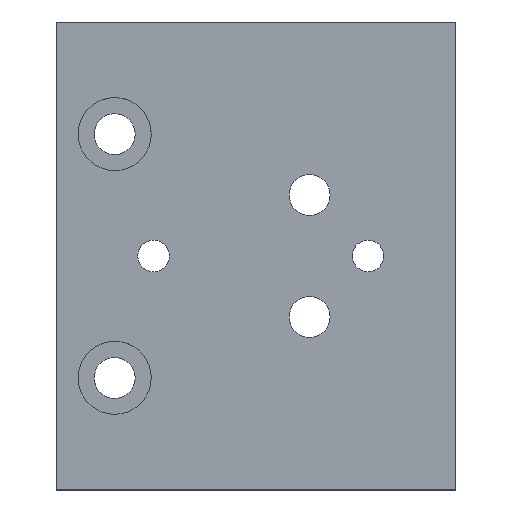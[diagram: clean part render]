
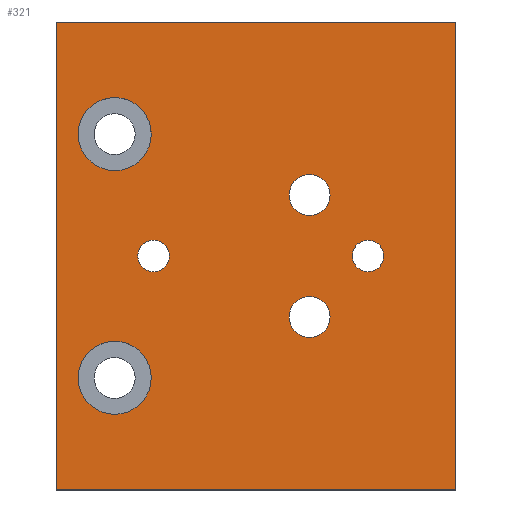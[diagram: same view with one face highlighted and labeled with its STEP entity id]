
A CAD part, top view. The second image highlights one B-rep face of the part: STEP entity #321.
In plain terms, the highlighted planar face has unit normal (0, 0, 1).
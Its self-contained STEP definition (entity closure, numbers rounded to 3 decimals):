
#22 = EDGE_CURVE ( 'NONE', #93, #83, #390, .T. ) ;
#58 = VERTEX_POINT ( 'NONE', #488 ) ;
#61 = VERTEX_POINT ( 'NONE', #483 ) ;
#63 = EDGE_CURVE ( 'NONE', #130, #61, #482, .T. ) ;
#83 = VERTEX_POINT ( 'NONE', #506 ) ;
#93 = VERTEX_POINT ( 'NONE', #543 ) ;
#98 = EDGE_CURVE ( 'NONE', #163, #164, #536, .T. ) ;
#100 = VERTEX_POINT ( 'NONE', #527 ) ;
#101 = VERTEX_POINT ( 'NONE', #526 ) ;
#106 = EDGE_CURVE ( 'NONE', #101, #100, #586, .T. ) ;
#120 = EDGE_CURVE ( 'NONE', #58, #129, #559, .T. ) ;
#129 = VERTEX_POINT ( 'NONE', #596 ) ;
#130 = VERTEX_POINT ( 'NONE', #595 ) ;
#150 = ORIENTED_EDGE ( 'NONE', *, *, #279, .T. ) ;
#163 = VERTEX_POINT ( 'NONE', #667 ) ;
#164 = VERTEX_POINT ( 'NONE', #666 ) ;
#256 = EDGE_CURVE ( 'NONE', #164, #163, #810, .T. ) ;
#263 = ORIENTED_EDGE ( 'NONE', *, *, #264, .F. ) ;
#264 = EDGE_CURVE ( 'NONE', #265, #325, #794, .T. ) ;
#265 = VERTEX_POINT ( 'NONE', #786 ) ;
#266 = ORIENTED_EDGE ( 'NONE', *, *, #267, .F. ) ;
#267 = EDGE_CURVE ( 'NONE', #268, #265, #785, .T. ) ;
#268 = VERTEX_POINT ( 'NONE', #845 ) ;
#269 = ORIENTED_EDGE ( 'NONE', *, *, #270, .F. ) ;
#270 = EDGE_CURVE ( 'NONE', #326, #268, #844, .T. ) ;
#271 = EDGE_LOOP ( 'NONE', ( #272, #273 ) ) ;
#272 = ORIENTED_EDGE ( 'NONE', *, *, #63, .T. ) ;
#273 = ORIENTED_EDGE ( 'NONE', *, *, #297, .T. ) ;
#274 = EDGE_LOOP ( 'NONE', ( #275, #276 ) ) ;
#275 = ORIENTED_EDGE ( 'NONE', *, *, #106, .T. ) ;
#276 = ORIENTED_EDGE ( 'NONE', *, *, #305, .T. ) ;
#279 = EDGE_CURVE ( 'NONE', #281, #282, #838, .T. ) ;
#281 = VERTEX_POINT ( 'NONE', #829 ) ;
#282 = VERTEX_POINT ( 'NONE', #828 ) ;
#292 = EDGE_CURVE ( 'NONE', #282, #281, #879, .T. ) ;
#297 = EDGE_CURVE ( 'NONE', #61, #130, #869, .T. ) ;
#305 = EDGE_CURVE ( 'NONE', #100, #101, #851, .T. ) ;
#321 = ADVANCED_FACE ( 'NONE', ( #892, #891, #890, #889, #888, #887, #886 ), #885, .T. ) ;
#322 = EDGE_LOOP ( 'NONE', ( #323, #263, #266, #269 ) ) ;
#323 = ORIENTED_EDGE ( 'NONE', *, *, #324, .F. ) ;
#324 = EDGE_CURVE ( 'NONE', #325, #326, #880, .T. ) ;
#325 = VERTEX_POINT ( 'NONE', #934 ) ;
#326 = VERTEX_POINT ( 'NONE', #933 ) ;
#349 = EDGE_LOOP ( 'NONE', ( #350, #351 ) ) ;
#350 = ORIENTED_EDGE ( 'NONE', *, *, #22, .T. ) ;
#351 = ORIENTED_EDGE ( 'NONE', *, *, #352, .T. ) ;
#352 = EDGE_CURVE ( 'NONE', #83, #93, #932, .T. ) ;
#353 = EDGE_LOOP ( 'NONE', ( #354, #355 ) ) ;
#354 = ORIENTED_EDGE ( 'NONE', *, *, #120, .T. ) ;
#355 = ORIENTED_EDGE ( 'NONE', *, *, #356, .T. ) ;
#356 = EDGE_CURVE ( 'NONE', #129, #58, #927, .T. ) ;
#357 = EDGE_LOOP ( 'NONE', ( #358, #359 ) ) ;
#358 = ORIENTED_EDGE ( 'NONE', *, *, #256, .T. ) ;
#359 = ORIENTED_EDGE ( 'NONE', *, *, #98, .T. ) ;
#360 = EDGE_LOOP ( 'NONE', ( #361, #150 ) ) ;
#361 = ORIENTED_EDGE ( 'NONE', *, *, #292, .T. ) ;
#386 = DIRECTION ( 'NONE',  ( 1., 0., 0. ) ) ;
#387 = DIRECTION ( 'NONE',  ( 0., 0., -1. ) ) ;
#388 = CARTESIAN_POINT ( 'NONE',  ( 32., 24., 7. ) ) ;
#389 = AXIS2_PLACEMENT_3D ( 'NONE', #388, #387, #386 ) ;
#390 = CIRCLE ( 'NONE', #389, 1.621 ) ;
#478 = DIRECTION ( 'NONE',  ( 1., 0., 0. ) ) ;
#479 = DIRECTION ( 'NONE',  ( 0., 0., -1. ) ) ;
#480 = CARTESIAN_POINT ( 'NONE',  ( 6., 36.5, 7. ) ) ;
#481 = AXIS2_PLACEMENT_3D ( 'NONE', #480, #479, #478 ) ;
#482 = CIRCLE ( 'NONE', #481, 3.75 ) ;
#483 = CARTESIAN_POINT ( 'NONE',  ( 2.25, 36.5, 7. ) ) ;
#488 = CARTESIAN_POINT ( 'NONE',  ( 11.621, 24., 7. ) ) ;
#506 = CARTESIAN_POINT ( 'NONE',  ( 30.379, 24., 7. ) ) ;
#526 = CARTESIAN_POINT ( 'NONE',  ( 9.75, 11.5, 7. ) ) ;
#527 = CARTESIAN_POINT ( 'NONE',  ( 2.25, 11.5, 7. ) ) ;
#532 = DIRECTION ( 'NONE',  ( -1., 0., 0. ) ) ;
#533 = DIRECTION ( 'NONE',  ( 0., 0., -1. ) ) ;
#534 = CARTESIAN_POINT ( 'NONE',  ( 26., 17.75, 7. ) ) ;
#535 = AXIS2_PLACEMENT_3D ( 'NONE', #534, #533, #532 ) ;
#536 = CIRCLE ( 'NONE', #535, 2.1 ) ;
#543 = CARTESIAN_POINT ( 'NONE',  ( 33.621, 24., 7. ) ) ;
#555 = DIRECTION ( 'NONE',  ( 1., 0., 0. ) ) ;
#556 = DIRECTION ( 'NONE',  ( 0., 0., -1. ) ) ;
#557 = CARTESIAN_POINT ( 'NONE',  ( 10., 24., 7. ) ) ;
#558 = AXIS2_PLACEMENT_3D ( 'NONE', #557, #556, #555 ) ;
#559 = CIRCLE ( 'NONE', #558, 1.621 ) ;
#582 = DIRECTION ( 'NONE',  ( 1., 0., 0. ) ) ;
#583 = DIRECTION ( 'NONE',  ( 0., 0., -1. ) ) ;
#584 = CARTESIAN_POINT ( 'NONE',  ( 6., 11.5, 7. ) ) ;
#585 = AXIS2_PLACEMENT_3D ( 'NONE', #584, #583, #582 ) ;
#586 = CIRCLE ( 'NONE', #585, 3.75 ) ;
#595 = CARTESIAN_POINT ( 'NONE',  ( 9.75, 36.5, 7. ) ) ;
#596 = CARTESIAN_POINT ( 'NONE',  ( 8.379, 24., 7. ) ) ;
#666 = CARTESIAN_POINT ( 'NONE',  ( 23.9, 17.75, 7. ) ) ;
#667 = CARTESIAN_POINT ( 'NONE',  ( 28.1, 17.75, 7. ) ) ;
#783 = VECTOR ( 'NONE', #846, 1000. ) ;
#784 = CARTESIAN_POINT ( 'NONE',  ( 0., 0., 7. ) ) ;
#785 = LINE ( 'NONE', #784, #783 ) ;
#786 = CARTESIAN_POINT ( 'NONE',  ( 0., 48., 7. ) ) ;
#787 = DIRECTION ( 'NONE',  ( 1., 0., 0. ) ) ;
#788 = VECTOR ( 'NONE', #787, 1000. ) ;
#789 = CARTESIAN_POINT ( 'NONE',  ( 0., 48., 7. ) ) ;
#794 = LINE ( 'NONE', #789, #788 ) ;
#802 = DIRECTION ( 'NONE',  ( -1., 0., 0. ) ) ;
#803 = DIRECTION ( 'NONE',  ( 0., 0., -1. ) ) ;
#804 = CARTESIAN_POINT ( 'NONE',  ( 26., 17.75, 7. ) ) ;
#805 = AXIS2_PLACEMENT_3D ( 'NONE', #804, #803, #802 ) ;
#810 = CIRCLE ( 'NONE', #805, 2.1 ) ;
#828 = CARTESIAN_POINT ( 'NONE',  ( 23.9, 30.25, 7. ) ) ;
#829 = CARTESIAN_POINT ( 'NONE',  ( 28.1, 30.25, 7. ) ) ;
#830 = DIRECTION ( 'NONE',  ( -1., 0., 0. ) ) ;
#831 = DIRECTION ( 'NONE',  ( 0., 0., -1. ) ) ;
#832 = CARTESIAN_POINT ( 'NONE',  ( 26., 30.25, 7. ) ) ;
#833 = AXIS2_PLACEMENT_3D ( 'NONE', #832, #831, #830 ) ;
#838 = CIRCLE ( 'NONE', #833, 2.1 ) ;
#841 = DIRECTION ( 'NONE',  ( -1., 0., 0. ) ) ;
#842 = VECTOR ( 'NONE', #841, 1000. ) ;
#843 = CARTESIAN_POINT ( 'NONE',  ( 41., 0., 7. ) ) ;
#844 = LINE ( 'NONE', #843, #842 ) ;
#845 = CARTESIAN_POINT ( 'NONE',  ( 0., 0., 7. ) ) ;
#846 = DIRECTION ( 'NONE',  ( 0., 1., 0. ) ) ;
#847 = DIRECTION ( 'NONE',  ( 1., 0., 0. ) ) ;
#848 = DIRECTION ( 'NONE',  ( 0., 0., -1. ) ) ;
#849 = CARTESIAN_POINT ( 'NONE',  ( 6., 11.5, 7. ) ) ;
#850 = AXIS2_PLACEMENT_3D ( 'NONE', #849, #848, #847 ) ;
#851 = CIRCLE ( 'NONE', #850, 3.75 ) ;
#865 = DIRECTION ( 'NONE',  ( 1., 0., 0. ) ) ;
#866 = DIRECTION ( 'NONE',  ( 0., 0., -1. ) ) ;
#867 = CARTESIAN_POINT ( 'NONE',  ( 6., 36.5, 7. ) ) ;
#868 = AXIS2_PLACEMENT_3D ( 'NONE', #867, #866, #865 ) ;
#869 = CIRCLE ( 'NONE', #868, 3.75 ) ;
#875 = DIRECTION ( 'NONE',  ( -1., 0., 0. ) ) ;
#876 = DIRECTION ( 'NONE',  ( 0., 0., -1. ) ) ;
#877 = CARTESIAN_POINT ( 'NONE',  ( 26., 30.25, 7. ) ) ;
#878 = AXIS2_PLACEMENT_3D ( 'NONE', #877, #876, #875 ) ;
#879 = CIRCLE ( 'NONE', #878, 2.1 ) ;
#880 = LINE ( 'NONE', #937, #936 ) ;
#881 = DIRECTION ( 'NONE',  ( 1., 0., 0. ) ) ;
#882 = DIRECTION ( 'NONE',  ( 0., 0., 1. ) ) ;
#883 = CARTESIAN_POINT ( 'NONE',  ( 20.5, 24., 7. ) ) ;
#884 = AXIS2_PLACEMENT_3D ( 'NONE', #883, #882, #881 ) ;
#885 = PLANE ( 'NONE',  #884 ) ;
#886 = FACE_BOUND ( 'NONE', #360, .T. ) ;
#887 = FACE_BOUND ( 'NONE', #357, .T. ) ;
#888 = FACE_BOUND ( 'NONE', #353, .T. ) ;
#889 = FACE_BOUND ( 'NONE', #349, .T. ) ;
#890 = FACE_BOUND ( 'NONE', #274, .T. ) ;
#891 = FACE_BOUND ( 'NONE', #271, .T. ) ;
#892 = FACE_OUTER_BOUND ( 'NONE', #322, .T. ) ;
#923 = DIRECTION ( 'NONE',  ( 1., 0., 0. ) ) ;
#924 = DIRECTION ( 'NONE',  ( 0., 0., -1. ) ) ;
#925 = CARTESIAN_POINT ( 'NONE',  ( 10., 24., 7. ) ) ;
#926 = AXIS2_PLACEMENT_3D ( 'NONE', #925, #924, #923 ) ;
#927 = CIRCLE ( 'NONE', #926, 1.621 ) ;
#928 = DIRECTION ( 'NONE',  ( 1., 0., 0. ) ) ;
#929 = DIRECTION ( 'NONE',  ( 0., 0., -1. ) ) ;
#930 = CARTESIAN_POINT ( 'NONE',  ( 32., 24., 7. ) ) ;
#931 = AXIS2_PLACEMENT_3D ( 'NONE', #930, #929, #928 ) ;
#932 = CIRCLE ( 'NONE', #931, 1.621 ) ;
#933 = CARTESIAN_POINT ( 'NONE',  ( 41., 0., 7. ) ) ;
#934 = CARTESIAN_POINT ( 'NONE',  ( 41., 48., 7. ) ) ;
#935 = DIRECTION ( 'NONE',  ( 0., -1., 0. ) ) ;
#936 = VECTOR ( 'NONE', #935, 1000. ) ;
#937 = CARTESIAN_POINT ( 'NONE',  ( 41., 48., 7. ) ) ;
